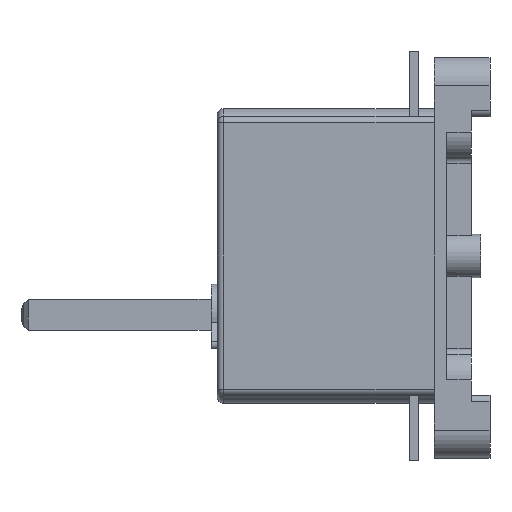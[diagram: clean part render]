
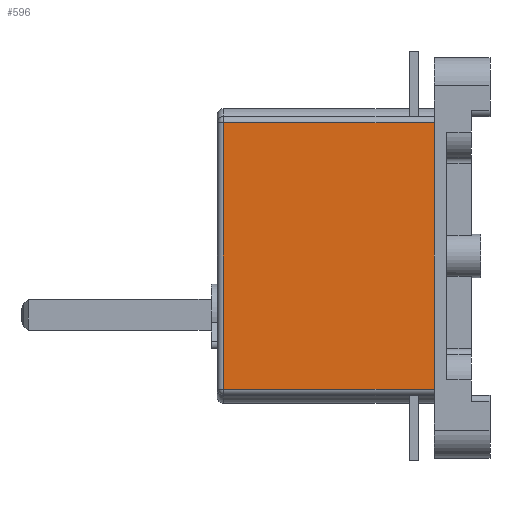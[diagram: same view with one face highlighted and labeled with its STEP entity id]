
A CAD part, left-side view. The second image highlights one B-rep face of the part: STEP entity #596.
In plain terms, the highlighted planar face has unit normal (-1, 0, 0).
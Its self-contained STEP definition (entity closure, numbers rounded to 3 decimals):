
#596=ADVANCED_FACE('',(#855),#719,.F.);
#719=PLANE('',#3909);
#855=FACE_OUTER_BOUND('',#1119,.T.);
#1119=EDGE_LOOP('',(#1976,#1977,#1978,#1979));
#1976=ORIENTED_EDGE('',*,*,#2905,.F.);
#1977=ORIENTED_EDGE('',*,*,#2892,.T.);
#1978=ORIENTED_EDGE('',*,*,#2906,.T.);
#1979=ORIENTED_EDGE('',*,*,#2633,.T.);
#2252=VERTEX_POINT('',#5380);
#2253=VERTEX_POINT('',#5382);
#2424=VERTEX_POINT('',#5936);
#2428=VERTEX_POINT('',#5952);
#2633=EDGE_CURVE('',#2253,#2252,#3082,.T.);
#2892=EDGE_CURVE('',#2424,#2428,#3222,.T.);
#2905=EDGE_CURVE('',#2424,#2252,#3229,.T.);
#2906=EDGE_CURVE('',#2428,#2253,#3230,.T.);
#3082=LINE('',#5381,#3406);
#3222=LINE('',#5953,#3546);
#3229=LINE('',#5990,#3553);
#3230=LINE('',#5992,#3554);
#3406=VECTOR('',#4317,1.);
#3546=VECTOR('',#4889,1.);
#3553=VECTOR('',#4914,1.);
#3554=VECTOR('',#4917,1.);
#3909=AXIS2_PLACEMENT_3D('',#5993,#4918,#4919);
#4317=DIRECTION('',(0.,0.,1.));
#4889=DIRECTION('',(0.,0.,-1.));
#4914=DIRECTION('',(0.,-1.,0.));
#4917=DIRECTION('',(0.,-1.,0.));
#4918=DIRECTION('',(1.,0.,0.));
#4919=DIRECTION('',(0.,0.,-1.));
#5380=CARTESIAN_POINT('',(-41.,0.,43.));
#5381=CARTESIAN_POINT('',(-41.,0.,-43.));
#5382=CARTESIAN_POINT('',(-41.,0.,-43.));
#5936=CARTESIAN_POINT('',(-41.,68.,43.));
#5952=CARTESIAN_POINT('',(-41.,68.,-43.));
#5953=CARTESIAN_POINT('',(-41.,68.,-43.));
#5990=CARTESIAN_POINT('',(-41.,35.,43.));
#5992=CARTESIAN_POINT('',(-41.,35.,-43.));
#5993=CARTESIAN_POINT('',(-41.,35.,-43.));
